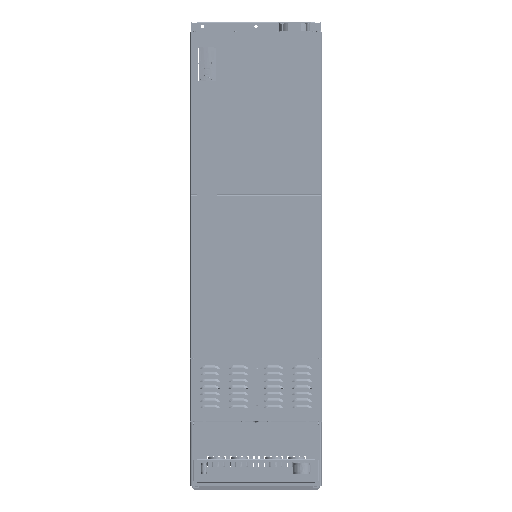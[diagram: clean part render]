
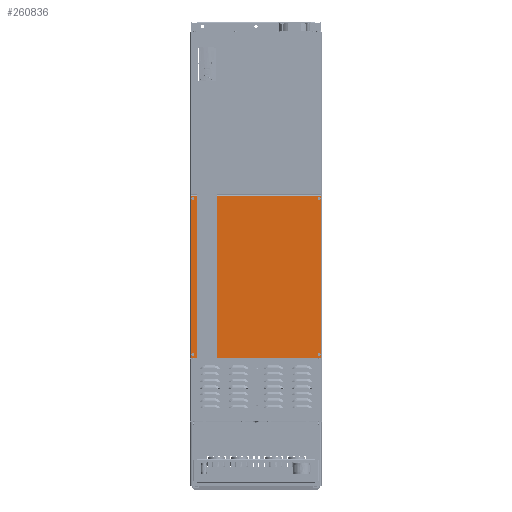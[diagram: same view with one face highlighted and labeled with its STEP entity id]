
A CAD part, top view. The second image highlights one B-rep face of the part: STEP entity #260836.
In plain terms, the highlighted planar face has unit normal (0, 0, 1).
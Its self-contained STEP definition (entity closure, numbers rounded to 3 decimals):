
#259414=CARTESIAN_POINT('',(250.35,626.75,0.));
#259415=DIRECTION('',(0.,0.,-1.));
#259416=DIRECTION('',(1.,0.,0.));
#259417=AXIS2_PLACEMENT_3D('',#259414,#259415,#259416);
#259422=DIRECTION('',(0.,1.,0.));
#259423=VECTOR('',#259422,626.75);
#259424=CARTESIAN_POINT('',(-250.6,0.,0.));
#259425=LINE('',#259424,#259423);
#259429=CARTESIAN_POINT('',(-250.35,626.75,0.));
#259430=DIRECTION('',(0.,0.,1.));
#259431=DIRECTION('',(-1.,0.,0.));
#259432=AXIS2_PLACEMENT_3D('',#259429,#259430,#259431);
#259437=CARTESIAN_POINT('',(244.6,616.5,0.));
#259438=DIRECTION('',(0.,0.,1.));
#259439=DIRECTION('',(-1.,0.,0.));
#259440=AXIS2_PLACEMENT_3D('',#259437,#259438,#259439);
#259445=CARTESIAN_POINT('',(244.6,616.5,0.));
#259446=DIRECTION('',(0.,0.,1.));
#259447=DIRECTION('',(1.,0.,0.));
#259448=AXIS2_PLACEMENT_3D('',#259445,#259446,#259447);
#259453=CARTESIAN_POINT('',(-244.6,616.5,0.));
#259454=DIRECTION('',(0.,0.,1.));
#259455=DIRECTION('',(-1.,0.,0.));
#259456=AXIS2_PLACEMENT_3D('',#259453,#259454,#259455);
#259461=CARTESIAN_POINT('',(-244.6,616.5,0.));
#259462=DIRECTION('',(0.,0.,1.));
#259463=DIRECTION('',(1.,0.,0.));
#259464=AXIS2_PLACEMENT_3D('',#259461,#259462,#259463);
#259469=CARTESIAN_POINT('',(-244.6,13.,0.));
#259470=DIRECTION('',(0.,0.,1.));
#259471=DIRECTION('',(-1.,0.,0.));
#259472=AXIS2_PLACEMENT_3D('',#259469,#259470,#259471);
#259477=CARTESIAN_POINT('',(-244.6,13.,0.));
#259478=DIRECTION('',(0.,0.,1.));
#259479=DIRECTION('',(1.,0.,0.));
#259480=AXIS2_PLACEMENT_3D('',#259477,#259478,#259479);
#259485=CARTESIAN_POINT('',(244.6,13.,0.));
#259486=DIRECTION('',(0.,0.,1.));
#259487=DIRECTION('',(-1.,0.,0.));
#259488=AXIS2_PLACEMENT_3D('',#259485,#259486,#259487);
#259493=CARTESIAN_POINT('',(244.6,13.,0.));
#259494=DIRECTION('',(0.,0.,1.));
#259495=DIRECTION('',(1.,0.,0.));
#259496=AXIS2_PLACEMENT_3D('',#259493,#259494,#259495);
#259501=DIRECTION('',(0.,-1.,0.));
#259502=VECTOR('',#259501,7.);
#259503=CARTESIAN_POINT('',(-228.85,27.,0.));
#259504=LINE('',#259503,#259502);
#259508=DIRECTION('',(1.,0.,0.));
#259509=VECTOR('',#259508,7.);
#259510=CARTESIAN_POINT('',(-228.85,20.,0.));
#259511=LINE('',#259510,#259509);
#259515=DIRECTION('',(0.,1.,0.));
#259516=VECTOR('',#259515,1.);
#259517=CARTESIAN_POINT('',(-221.85,20.,0.));
#259518=LINE('',#259517,#259516);
#259522=DIRECTION('',(-1.,0.,0.));
#259523=VECTOR('',#259522,6.);
#259524=CARTESIAN_POINT('',(-221.85,21.,0.));
#259525=LINE('',#259524,#259523);
#259529=DIRECTION('',(0.,1.,0.));
#259530=VECTOR('',#259529,6.);
#259531=CARTESIAN_POINT('',(-227.85,21.,0.));
#259532=LINE('',#259531,#259530);
#259536=DIRECTION('',(-1.,0.,0.));
#259537=VECTOR('',#259536,1.);
#259538=CARTESIAN_POINT('',(-227.85,27.,0.));
#259539=LINE('',#259538,#259537);
#259543=DIRECTION('',(-1.,0.,0.));
#259544=VECTOR('',#259543,7.);
#259545=CARTESIAN_POINT('',(-221.85,609.5,0.));
#259546=LINE('',#259545,#259544);
#259550=DIRECTION('',(0.,-1.,0.));
#259551=VECTOR('',#259550,7.);
#259552=CARTESIAN_POINT('',(-228.85,609.5,0.));
#259553=LINE('',#259552,#259551);
#259557=DIRECTION('',(1.,0.,0.));
#259558=VECTOR('',#259557,1.);
#259559=CARTESIAN_POINT('',(-228.85,602.5,0.));
#259560=LINE('',#259559,#259558);
#259564=DIRECTION('',(0.,1.,0.));
#259565=VECTOR('',#259564,6.);
#259566=CARTESIAN_POINT('',(-227.85,602.5,0.));
#259567=LINE('',#259566,#259565);
#259571=DIRECTION('',(1.,0.,0.));
#259572=VECTOR('',#259571,6.);
#259573=CARTESIAN_POINT('',(-227.85,608.5,0.));
#259574=LINE('',#259573,#259572);
#259578=DIRECTION('',(0.,1.,0.));
#259579=VECTOR('',#259578,1.);
#259580=CARTESIAN_POINT('',(-221.85,608.5,0.));
#259581=LINE('',#259580,#259579);
#259585=DIRECTION('',(-1.,0.,0.));
#259586=VECTOR('',#259585,500.7);
#259587=CARTESIAN_POINT('',(250.35,626.5,0.));
#259588=LINE('',#259587,#259586);
#260065=DIRECTION('',(0.,1.,0.));
#260066=VECTOR('',#260065,626.75);
#260067=CARTESIAN_POINT('',(250.6,0.,0.));
#260068=LINE('',#260067,#260066);
#260225=DIRECTION('',(1.,0.,0.));
#260226=VECTOR('',#260225,501.2);
#260227=CARTESIAN_POINT('',(-250.6,0.,0.));
#260228=LINE('',#260227,#260226);
#260471=CARTESIAN_POINT('',(-250.6,0.,0.));
#260473=VERTEX_POINT('',#260471);
#260474=CARTESIAN_POINT('',(250.6,0.,0.));
#260475=VERTEX_POINT('',#260474);
#260506=CARTESIAN_POINT('',(-228.85,27.,0.));
#260507=VERTEX_POINT('',#260506);
#260508=CARTESIAN_POINT('',(-228.85,20.,0.));
#260509=VERTEX_POINT('',#260508);
#260510=CARTESIAN_POINT('',(-221.85,20.,0.));
#260511=VERTEX_POINT('',#260510);
#260512=CARTESIAN_POINT('',(-221.85,21.,0.));
#260513=VERTEX_POINT('',#260512);
#260514=CARTESIAN_POINT('',(-227.85,21.,0.));
#260515=VERTEX_POINT('',#260514);
#260516=CARTESIAN_POINT('',(-227.85,27.,0.));
#260517=VERTEX_POINT('',#260516);
#260530=CARTESIAN_POINT('',(-221.85,609.5,0.));
#260531=VERTEX_POINT('',#260530);
#260532=CARTESIAN_POINT('',(-228.85,609.5,0.));
#260533=VERTEX_POINT('',#260532);
#260534=CARTESIAN_POINT('',(-228.85,602.5,0.));
#260535=VERTEX_POINT('',#260534);
#260536=CARTESIAN_POINT('',(-227.85,602.5,0.));
#260537=VERTEX_POINT('',#260536);
#260538=CARTESIAN_POINT('',(-227.85,608.5,0.));
#260539=VERTEX_POINT('',#260538);
#260540=CARTESIAN_POINT('',(-221.85,608.5,0.));
#260541=VERTEX_POINT('',#260540);
#260542=CARTESIAN_POINT('',(242.3,616.5,0.));
#260543=CARTESIAN_POINT('',(246.9,616.5,0.));
#260544=VERTEX_POINT('',#260542);
#260545=VERTEX_POINT('',#260543);
#260546=CARTESIAN_POINT('',(-246.9,616.5,0.));
#260547=CARTESIAN_POINT('',(-242.3,616.5,0.));
#260548=VERTEX_POINT('',#260546);
#260549=VERTEX_POINT('',#260547);
#260550=CARTESIAN_POINT('',(-246.9,13.,0.));
#260551=CARTESIAN_POINT('',(-242.3,13.,0.));
#260552=VERTEX_POINT('',#260550);
#260553=VERTEX_POINT('',#260551);
#260554=CARTESIAN_POINT('',(242.3,13.,0.));
#260555=CARTESIAN_POINT('',(246.9,13.,0.));
#260556=VERTEX_POINT('',#260554);
#260557=VERTEX_POINT('',#260555);
#260582=CARTESIAN_POINT('',(-250.6,626.75,0.));
#260583=VERTEX_POINT('',#260582);
#260586=CARTESIAN_POINT('',(250.6,626.75,0.));
#260588=VERTEX_POINT('',#260586);
#260592=CARTESIAN_POINT('',(250.35,626.5,0.));
#260593=VERTEX_POINT('',#260592);
#260596=CARTESIAN_POINT('',(-250.35,626.5,0.));
#260597=VERTEX_POINT('',#260596);
#260766=CARTESIAN_POINT('',(-250.6,0.,0.));
#260767=DIRECTION('',(0.,0.,1.));
#260768=DIRECTION('',(1.,0.,0.));
#260769=AXIS2_PLACEMENT_3D('',#260766,#260767,#260768);
#260770=PLANE('',#260769);
#260772=ORIENTED_EDGE('',*,*,#260771,.F.);
#260774=ORIENTED_EDGE('',*,*,#260773,.F.);
#260776=ORIENTED_EDGE('',*,*,#260775,.F.);
#260778=ORIENTED_EDGE('',*,*,#260777,.F.);
#260779=ORIENTED_EDGE('',*,*,#260755,.T.);
#260781=ORIENTED_EDGE('',*,*,#260780,.T.);
#260782=EDGE_LOOP('',(#260772,#260774,#260776,#260778,#260779,#260781));
#260783=FACE_OUTER_BOUND('',#260782,.F.);
#260785=ORIENTED_EDGE('',*,*,#260784,.T.);
#260787=ORIENTED_EDGE('',*,*,#260786,.T.);
#260788=EDGE_LOOP('',(#260785,#260787));
#260789=FACE_BOUND('',#260788,.F.);
#260791=ORIENTED_EDGE('',*,*,#260790,.T.);
#260793=ORIENTED_EDGE('',*,*,#260792,.T.);
#260794=EDGE_LOOP('',(#260791,#260793));
#260795=FACE_BOUND('',#260794,.F.);
#260797=ORIENTED_EDGE('',*,*,#260796,.T.);
#260799=ORIENTED_EDGE('',*,*,#260798,.T.);
#260800=EDGE_LOOP('',(#260797,#260799));
#260801=FACE_BOUND('',#260800,.F.);
#260803=ORIENTED_EDGE('',*,*,#260802,.T.);
#260805=ORIENTED_EDGE('',*,*,#260804,.T.);
#260806=EDGE_LOOP('',(#260803,#260805));
#260807=FACE_BOUND('',#260806,.F.);
#260809=ORIENTED_EDGE('',*,*,#260808,.T.);
#260811=ORIENTED_EDGE('',*,*,#260810,.T.);
#260813=ORIENTED_EDGE('',*,*,#260812,.T.);
#260815=ORIENTED_EDGE('',*,*,#260814,.T.);
#260817=ORIENTED_EDGE('',*,*,#260816,.T.);
#260819=ORIENTED_EDGE('',*,*,#260818,.T.);
#260820=EDGE_LOOP('',(#260809,#260811,#260813,#260815,#260817,#260819));
#260821=FACE_BOUND('',#260820,.F.);
#260823=ORIENTED_EDGE('',*,*,#260822,.T.);
#260825=ORIENTED_EDGE('',*,*,#260824,.T.);
#260827=ORIENTED_EDGE('',*,*,#260826,.T.);
#260829=ORIENTED_EDGE('',*,*,#260828,.T.);
#260831=ORIENTED_EDGE('',*,*,#260830,.T.);
#260833=ORIENTED_EDGE('',*,*,#260832,.T.);
#260834=EDGE_LOOP('',(#260823,#260825,#260827,#260829,#260831,#260833));
#260835=FACE_BOUND('',#260834,.F.);
#260836=ADVANCED_FACE('',(#260783,#260789,#260795,#260801,#260807,#260821,
#260835),#260770,.T.);
#259418=CIRCLE('',#259417,0.25);
#259433=CIRCLE('',#259432,0.25);
#259441=CIRCLE('',#259440,2.3);
#259449=CIRCLE('',#259448,2.3);
#259457=CIRCLE('',#259456,2.3);
#259465=CIRCLE('',#259464,2.3);
#259473=CIRCLE('',#259472,2.3);
#259481=CIRCLE('',#259480,2.3);
#259489=CIRCLE('',#259488,2.3);
#259497=CIRCLE('',#259496,2.3);
#260755=EDGE_CURVE('',#260473,#260583,#259425,.T.);
#260771=EDGE_CURVE('',#260593,#260597,#259588,.T.);
#260773=EDGE_CURVE('',#260588,#260593,#259418,.T.);
#260775=EDGE_CURVE('',#260475,#260588,#260068,.T.);
#260777=EDGE_CURVE('',#260473,#260475,#260228,.T.);
#260780=EDGE_CURVE('',#260583,#260597,#259433,.T.);
#260784=EDGE_CURVE('',#260544,#260545,#259441,.T.);
#260786=EDGE_CURVE('',#260545,#260544,#259449,.T.);
#260790=EDGE_CURVE('',#260548,#260549,#259457,.T.);
#260792=EDGE_CURVE('',#260549,#260548,#259465,.T.);
#260796=EDGE_CURVE('',#260552,#260553,#259473,.T.);
#260798=EDGE_CURVE('',#260553,#260552,#259481,.T.);
#260802=EDGE_CURVE('',#260556,#260557,#259489,.T.);
#260804=EDGE_CURVE('',#260557,#260556,#259497,.T.);
#260808=EDGE_CURVE('',#260507,#260509,#259504,.T.);
#260810=EDGE_CURVE('',#260509,#260511,#259511,.T.);
#260812=EDGE_CURVE('',#260511,#260513,#259518,.T.);
#260814=EDGE_CURVE('',#260513,#260515,#259525,.T.);
#260816=EDGE_CURVE('',#260515,#260517,#259532,.T.);
#260818=EDGE_CURVE('',#260517,#260507,#259539,.T.);
#260822=EDGE_CURVE('',#260531,#260533,#259546,.T.);
#260824=EDGE_CURVE('',#260533,#260535,#259553,.T.);
#260826=EDGE_CURVE('',#260535,#260537,#259560,.T.);
#260828=EDGE_CURVE('',#260537,#260539,#259567,.T.);
#260830=EDGE_CURVE('',#260539,#260541,#259574,.T.);
#260832=EDGE_CURVE('',#260541,#260531,#259581,.T.);
